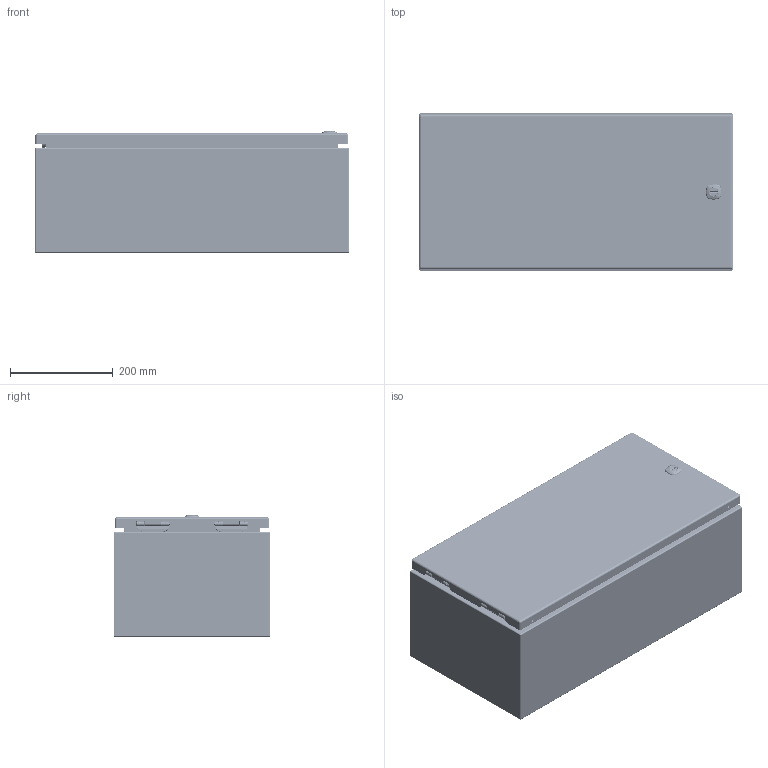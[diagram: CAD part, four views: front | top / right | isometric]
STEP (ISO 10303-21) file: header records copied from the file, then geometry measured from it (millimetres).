
FILE_DESCRIPTION(/* description */ ('5412ES 12" x 24" x 8" Assembly'),/* implementation_level */ '2;1');
FILE_NAME(/* name */ 'C:\Vault_Workspace\Inventor_Dwg\BoxCad\Result\5412ESB122408\e-mail\3D\5412ESB122408.stp',/* time_stamp */ '2022-03-11T10:17:00-05:00',/* author */ ('BoxCad'),/* organization */ (''),/* preprocessor_version */ 'ST-DEVELOPER v18.1',/* originating_system */ 'Autodesk Inventor 2020',/* authorisation */ '');
FILE_SCHEMA (('AUTOMOTIVE_DESIGN { 1 0 10303 214 3 1 1 }'));
Products named in the file (43): 5412ESB122408; 5412ESB122408B; 5412ESB122408B-P; STK-Q-16005; STUD_M6 x 16mm; STK-Q-07610; 881SP2412G; 881SP2412G-P; STK-Q-07310; 5412ESB122408C; 5412ESB122408C-P; 5412ESB122408G; STK-K-09800; STK-K-09800-2; STK-Q-33014; STK-Q-90398; STK-Q-40095; STK-Q-63410; STK-Q-16055; STK-Q-46020-12; STK-Q-07220-1; STK-Q-07220-2; STK-Q-07220-3; STK-Q-07220-4; STK-Q-07220-A; STK-Q-07220-B; STK-P-03820R; STK-S-00100; STK-A-880SCQ4-SL-1; STK-Q-78110; STK-Q-78120; STK-Q-78145; STK-Q-03200; STK-Q-78125; STK-Q-78141; STK-Q-90390; STK-Q-78160; STK-Q-04050-07; STK-Q-04050-07-2; STK-Q-04050-07-P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
Assembly tree (73 placements, depth 4):
  5412ESB122408
    5412ESB122408B
      5412ESB122408B-P
      STK-Q-16005  x4
      STK-P-03820R
      STUD_M6 x 16mm
    STK-Q-07610  x4
    881SP2412G
      881SP2412G-P
    STK-Q-07310  x4
    5412ESB122408C
      5412ESB122408C-P
      5412ESB122408G
      STK-K-09800
        STK-Q-33014
        STK-Q-90398
        STK-Q-40095  x2
        STK-Q-63410  x2
      STK-K-09800-2
        STK-Q-33014
        STK-Q-90398
        STK-Q-40095  x2
        STK-Q-63410  x2
      STK-Q-16055  x4
      STK-Q-46020-12  x2
      STK-Q-07220-1
        STK-Q-07220-A
        STK-Q-07220-B
      STK-Q-07220-2
        STK-Q-07220-A
        STK-Q-07220-B
      STK-Q-07220-3
        STK-Q-07220-A
        STK-Q-07220-B
      STK-Q-07220-4
        STK-Q-07220-A
        STK-Q-07220-B
      STK-P-03820R
      STK-S-00100  x2
      STK-A-880SCQ4-SL-1
        STK-Q-78110
        STK-Q-78120
        STK-Q-78145
        STK-Q-03200
        STK-Q-78125
        STK-Q-78141
        STK-Q-90390
        STK-Q-78160
    STK-Q-04050-07
      STK-Q-04050-07-P
      STK-Q-04050-N
    STK-Q-04050-07-2
      STK-Q-04050-07-P
      STK-Q-04050-N
    STK-A-01800
    880 PP
Bounding box: 609.67 x 304.8 x 236.35 mm (x, y, z)
Volume: 1724381.5 mm3; surface area: 2181697.6 mm2
Topology: 57 solids, 57 shells, 8136 faces, 21998 edges, 14009 vertices
Faces by surface type: bspline 3057, cylinder 2206, plane 2054, torus 508, sphere 164, cone 147
Full cylindrical faces by diameter (mm): 0 x1, 0.75 x9, 0.762 x9, 1 x8, 1.1 x8, 3.2 x4, 4.191 x16, 4.5 x4, 4.521 x8, 4.75 x2, 4.85 x16, 4.95 x4, 5 x4, 5.1 x25, 5.156 x4, 5.6 x2, 5.9 x21, 6.015 x16, 6.65 x4, 6.8 x4, 6.85 x16, 7.3 x2, 7.366 x4, 7.9 x8, 8 x12, 8.382 x2, 9.5 x4, 9.6 x1, 9.906 x4, 10 x1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
Entity records: 151714 total; most frequent: CARTESIAN_POINT 63347, ORIENTED_EDGE 20326, DIRECTION 14527, EDGE_CURVE 10163, VERTEX_POINT 6427, AXIS2_PLACEMENT_3D 5295, EDGE_LOOP 4108, LINE 3937
